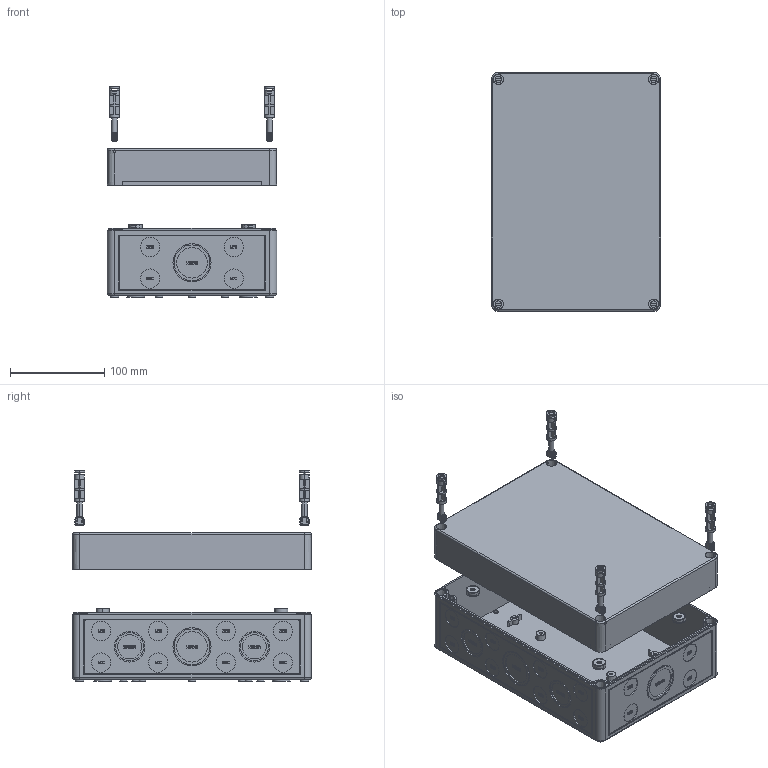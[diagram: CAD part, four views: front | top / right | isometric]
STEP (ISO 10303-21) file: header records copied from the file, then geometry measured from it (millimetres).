
FILE_DESCRIPTION (( 'STEP AP214' ), '1' );
FILE_NAME ('SK-21.step', '2015-09-08T14:56:12', ( 'doug' ), ( '' ), 'SwSTEP 2.0', 'SolidWorks 2015', '' );
FILE_SCHEMA (( 'AUTOMOTIVE_DESIGN' ));
Length unit declared in the file: inch
Products named in the file (6): SCREWS-016_017_SCREWS-016; SK-21C_SK-21C-02; SK-21B_SK-21B-02; SK-21; SK-KIT-05_06_SK-KIT-05; SK-CAP-02
Assembly tree (11 placements, depth 3):
  SK-21
    SK-21B_SK-21B-02
    SK-21C_SK-21C-02
    SK-KIT-05_06_SK-KIT-05
      SCREWS-016_017_SCREWS-016  x4
      SK-CAP-02  x4
Bounding box: 180 x 254 x 223.48 mm (x, y, z)
Volume: 643445.6 mm3; surface area: 421706.2 mm2
Topology: 11 solids, 11 shells, 5293 faces, 14607 edges, 9674 vertices
Faces by surface type: plane 3670, bspline 938, cylinder 529, torus 76, cone 72, sphere 8
Entity records: 164310 total; most frequent: CARTESIAN_POINT 44857, ORIENTED_EDGE 26880, DIRECTION 20826, EDGE_CURVE 13440, LINE 10662, VECTOR 10662, VERTEX_POINT 8915, EDGE_LOOP 5141
